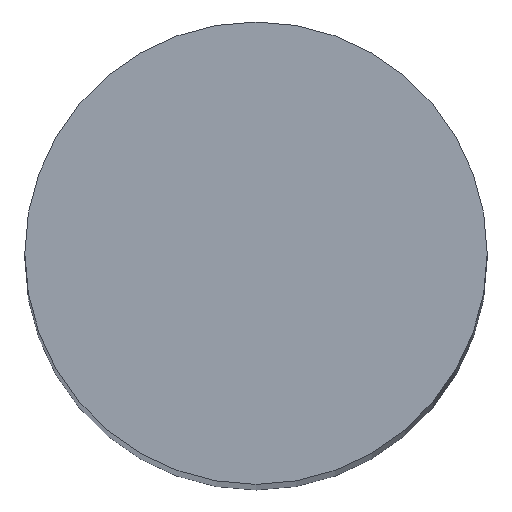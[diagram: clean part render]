
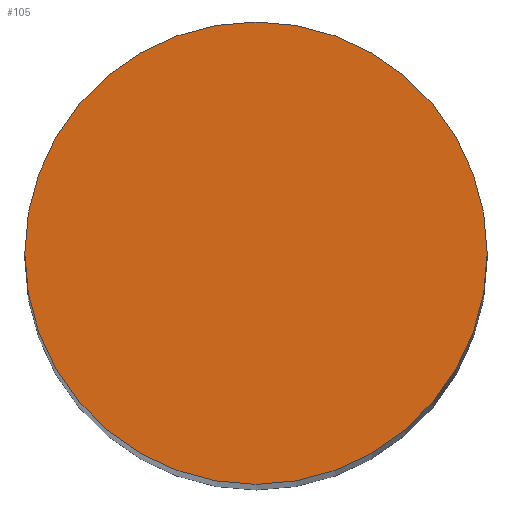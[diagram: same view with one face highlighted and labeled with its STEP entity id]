
A CAD part, top view. The second image highlights one B-rep face of the part: STEP entity #105.
In plain terms, the highlighted planar face has unit normal (0, 0, 1).
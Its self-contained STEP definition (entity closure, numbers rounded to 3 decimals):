
#21 = EDGE_CURVE('',#22,#22,#24,.T.);
#22 = VERTEX_POINT('',#23);
#23 = CARTESIAN_POINT('',(-421.,-80.913,-29.));
#24 = SURFACE_CURVE('',#25,(#30,#42),.PCURVE_S1.);
#25 = CIRCLE('',#26,4.);
#26 = AXIS2_PLACEMENT_3D('',#27,#28,#29);
#27 = CARTESIAN_POINT('',(-425.,-80.913,-29.));
#28 = DIRECTION('',(0.,0.,1.));
#29 = DIRECTION('',(1.,0.,-0.));
#30 = PCURVE('',#31,#36);
#31 = CYLINDRICAL_SURFACE('',#32,4.);
#32 = AXIS2_PLACEMENT_3D('',#33,#34,#35);
#33 = CARTESIAN_POINT('',(-425.,-80.913,-85.));
#34 = DIRECTION('',(0.,0.,1.));
#35 = DIRECTION('',(1.,0.,-0.));
#36 = DEFINITIONAL_REPRESENTATION('',(#37),#41);
#37 = LINE('',#38,#39);
#38 = CARTESIAN_POINT('',(0.,56.));
#39 = VECTOR('',#40,1.);
#40 = DIRECTION('',(1.,0.));
#41 = ( GEOMETRIC_REPRESENTATION_CONTEXT(2) 
PARAMETRIC_REPRESENTATION_CONTEXT() REPRESENTATION_CONTEXT('2D SPACE',''
  ) );
#42 = PCURVE('',#43,#48);
#43 = PLANE('',#44);
#44 = AXIS2_PLACEMENT_3D('',#45,#46,#47);
#45 = CARTESIAN_POINT('',(-425.,-80.913,-29.));
#46 = DIRECTION('',(0.,0.,1.));
#47 = DIRECTION('',(1.,0.,-0.));
#48 = DEFINITIONAL_REPRESENTATION('',(#49),#53);
#49 = CIRCLE('',#50,4.);
#50 = AXIS2_PLACEMENT_2D('',#51,#52);
#51 = CARTESIAN_POINT('',(0.,0.));
#52 = DIRECTION('',(1.,0.));
#53 = ( GEOMETRIC_REPRESENTATION_CONTEXT(2) 
PARAMETRIC_REPRESENTATION_CONTEXT() REPRESENTATION_CONTEXT('2D SPACE',''
  ) );
#105 = ADVANCED_FACE('',(#106),#43,.T.);
#106 = FACE_BOUND('',#107,.T.);
#107 = EDGE_LOOP('',(#108));
#108 = ORIENTED_EDGE('',*,*,#21,.T.);
